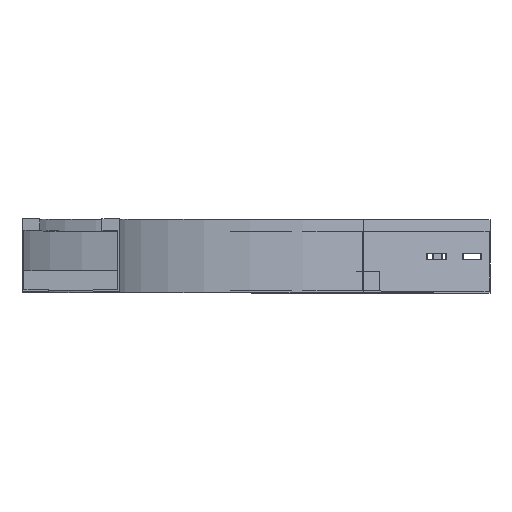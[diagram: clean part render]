
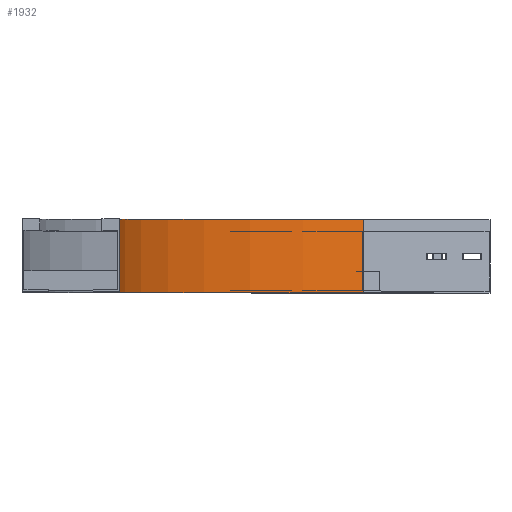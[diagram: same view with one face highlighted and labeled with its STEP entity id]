
A CAD part, top view. The second image highlights one B-rep face of the part: STEP entity #1932.
In plain terms, the highlighted cylindrical face has radius 500 mm (diameter 1000 mm), a partial arc.
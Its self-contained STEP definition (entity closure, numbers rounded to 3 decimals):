
#105 = VECTOR ( 'NONE', #778, 1000. ) ;
#181 = CARTESIAN_POINT ( 'NONE',  ( 250., 75., -583.013 ) ) ;
#209 = CARTESIAN_POINT ( 'NONE',  ( 250., 0., -583.013 ) ) ;
#247 = CARTESIAN_POINT ( 'NONE',  ( 0., 0., -150. ) ) ;
#265 = CARTESIAN_POINT ( 'NONE',  ( 250., 0., -583.013 ) ) ;
#369 = CYLINDRICAL_SURFACE ( 'NONE', #2750, 500. ) ;
#408 = CARTESIAN_POINT ( 'NONE',  ( 500., 0., -150. ) ) ;
#720 = DIRECTION ( 'NONE',  ( 0., -1., 0. ) ) ;
#778 = DIRECTION ( 'NONE',  ( 0., 1., 0. ) ) ;
#951 = VERTEX_POINT ( 'NONE', #3826 ) ;
#1000 = CIRCLE ( 'NONE', #3303, 500. ) ;
#1003 = VERTEX_POINT ( 'NONE', #265 ) ;
#1011 = DIRECTION ( 'NONE',  ( 0., 0., -1. ) ) ;
#1020 = ORIENTED_EDGE ( 'NONE', *, *, #3170, .F. ) ;
#1702 = ORIENTED_EDGE ( 'NONE', *, *, #2662, .T. ) ;
#1785 = CIRCLE ( 'NONE', #3579, 500. ) ;
#1790 = LINE ( 'NONE', #247, #3369 ) ;
#1798 = EDGE_CURVE ( 'NONE', #3400, #951, #1790, .T. ) ;
#1865 = ORIENTED_EDGE ( 'NONE', *, *, #1798, .F. ) ;
#1932 = ADVANCED_FACE ( 'NONE', ( #3672 ), #369, .F. ) ;
#2060 = ORIENTED_EDGE ( 'NONE', *, *, #3183, .T. ) ;
#2240 = DIRECTION ( 'NONE',  ( 0., -1., 0. ) ) ;
#2281 = CARTESIAN_POINT ( 'NONE',  ( 500., 75., -150. ) ) ;
#2307 = DIRECTION ( 'NONE',  ( -1., 0., 0. ) ) ;
#2662 = EDGE_CURVE ( 'NONE', #3400, #1003, #1000, .T. ) ;
#2699 = CARTESIAN_POINT ( 'NONE',  ( 0., 0., -150. ) ) ;
#2750 = AXIS2_PLACEMENT_3D ( 'NONE', #408, #720, #1011 ) ;
#2821 = DIRECTION ( 'NONE',  ( -1., 0., 0. ) ) ;
#3170 = EDGE_CURVE ( 'NONE', #951, #3700, #1785, .T. ) ;
#3183 = EDGE_CURVE ( 'NONE', #1003, #3700, #3421, .T. ) ;
#3303 = AXIS2_PLACEMENT_3D ( 'NONE', #3544, #3500, #2307 ) ;
#3369 = VECTOR ( 'NONE', #3831, 1000. ) ;
#3400 = VERTEX_POINT ( 'NONE', #2699 ) ;
#3421 = LINE ( 'NONE', #209, #105 ) ;
#3432 = EDGE_LOOP ( 'NONE', ( #1020, #1865, #1702, #2060 ) ) ;
#3500 = DIRECTION ( 'NONE',  ( 0., -1., 0. ) ) ;
#3544 = CARTESIAN_POINT ( 'NONE',  ( 500., 0., -150. ) ) ;
#3579 = AXIS2_PLACEMENT_3D ( 'NONE', #2281, #2240, #2821 ) ;
#3672 = FACE_OUTER_BOUND ( 'NONE', #3432, .T. ) ;
#3700 = VERTEX_POINT ( 'NONE', #181 ) ;
#3826 = CARTESIAN_POINT ( 'NONE',  ( 0., 75., -150. ) ) ;
#3831 = DIRECTION ( 'NONE',  ( 0., 1., 0. ) ) ;
